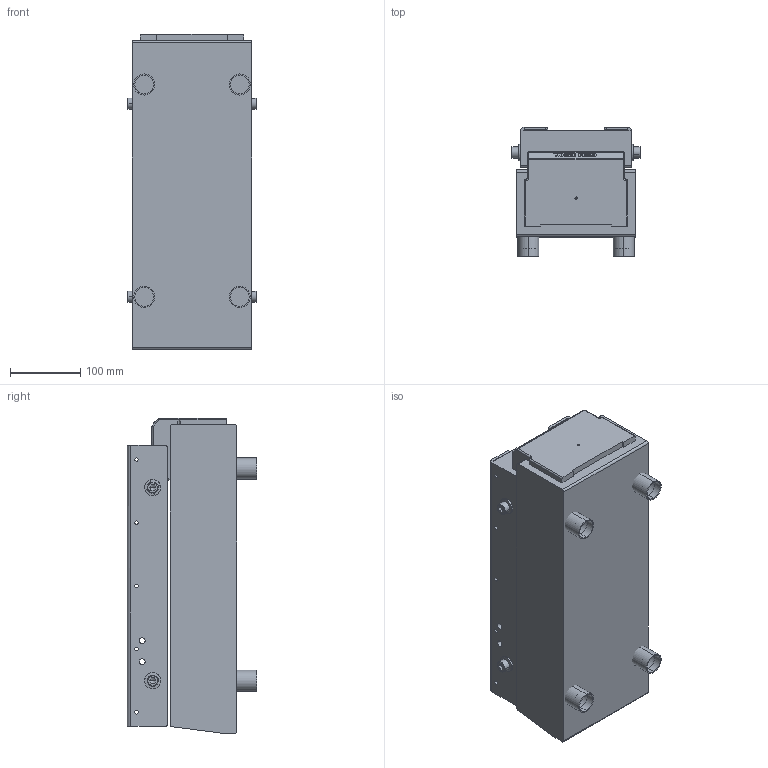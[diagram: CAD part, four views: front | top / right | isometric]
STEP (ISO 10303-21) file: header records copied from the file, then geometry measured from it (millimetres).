
FILE_DESCRIPTION( ('This file contains a STEP AP42 implementation' ,'as created by ZW3D STEP Interface translator.') ,'2;1' );
FILE_NAME( 'HD-SX400M 202305蹟邡55.stp' ,'23 5 5.17 445', (''), ('ZWCAD Software Co.'), 'Version 1.0', 'ZW3D to STEP translator', '' );
FILE_SCHEMA( ('CONFIG_CONTROL_DESIGN') );
Length unit declared in the file: millimetre
Products named in the file (2): 0; HD-SX400M 202305蹟邡1
Bounding box: 184.4 x 184 x 448.8 mm (x, y, z)
Volume: 10688626.2 mm3; surface area: 561428.6 mm2
Topology: 9 solids, 14 shells, 496 faces, 1264 edges, 794 vertices
Faces by surface type: bspline 496
Entity records: 28008 total; most frequent: CARTESIAN_POINT 20125, ORIENTED_EDGE 2492, EDGE_CURVE 1256, B_SPLINE_CURVE_WITH_KNOTS 866, VERTEX_POINT 794, EDGE_LOOP 557, FACE_OUTER_BOUND 496, ADVANCED_FACE 496
